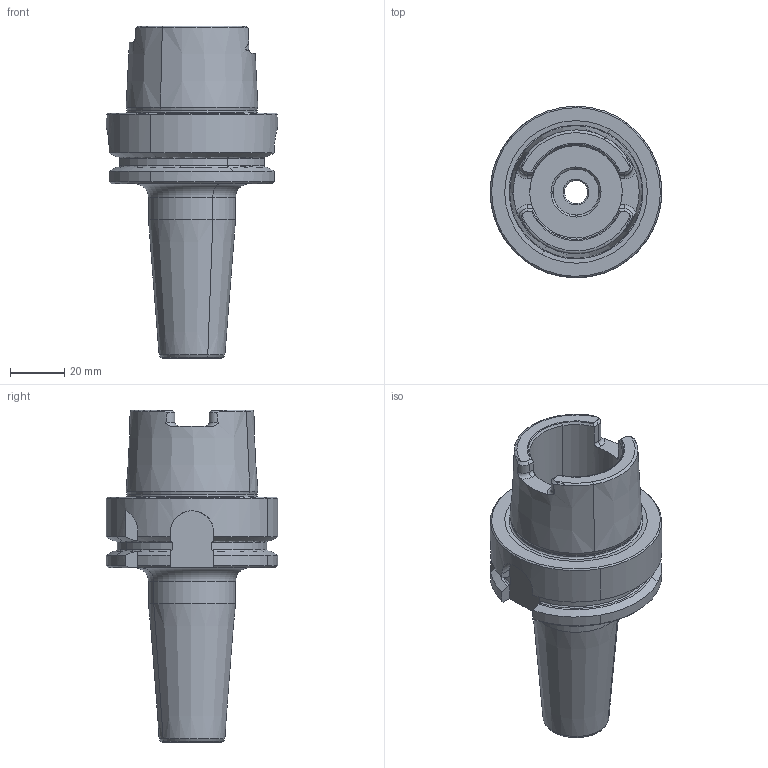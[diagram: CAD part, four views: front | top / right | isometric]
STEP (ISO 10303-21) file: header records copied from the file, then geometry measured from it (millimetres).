
FILE_DESCRIPTION(('CATIA V5 STEP','CAx-IF Rec.Pracs.--- Model Styling and Organization---1.2---2011-12-15'),'2;1');
FILE_NAME('\\nas01\drv1\utils\eitdev\rte\eit\transmagicconvert\db\out\4503902 L.stp','2014-03-30T09:09:13+00:00',('none'),('none'),'CATIA Version 5 Release 21 SP 5 (IN-10)','CATIA V5 STEP AP214','none');
FILE_SCHEMA(('AUTOMOTIVE_DESIGN { 1 0 10303 214 1 1 1 1 }'));
Length unit declared in the file: millimetre
Products named in the file (1): 61025839_0 Holder-Tool HSK A 63 SRKIN 12X90
Bounding box: 62.99 x 63 x 122 mm (x, y, z)
Volume: 124146 mm3; surface area: 28938 mm2
Topology: 1 solids, 1 shells, 160 faces, 399 edges, 246 vertices
Faces by surface type: plane 43, cone 43, cylinder 40, torus 34
Entity records: 4813 total; most frequent: CARTESIAN_POINT 1425, ORIENTED_EDGE 798, DIRECTION 512, EDGE_CURVE 399, AXIS2_PLACEMENT_3D 281, VERTEX_POINT 246, CIRCLE 185, EDGE_LOOP 167
